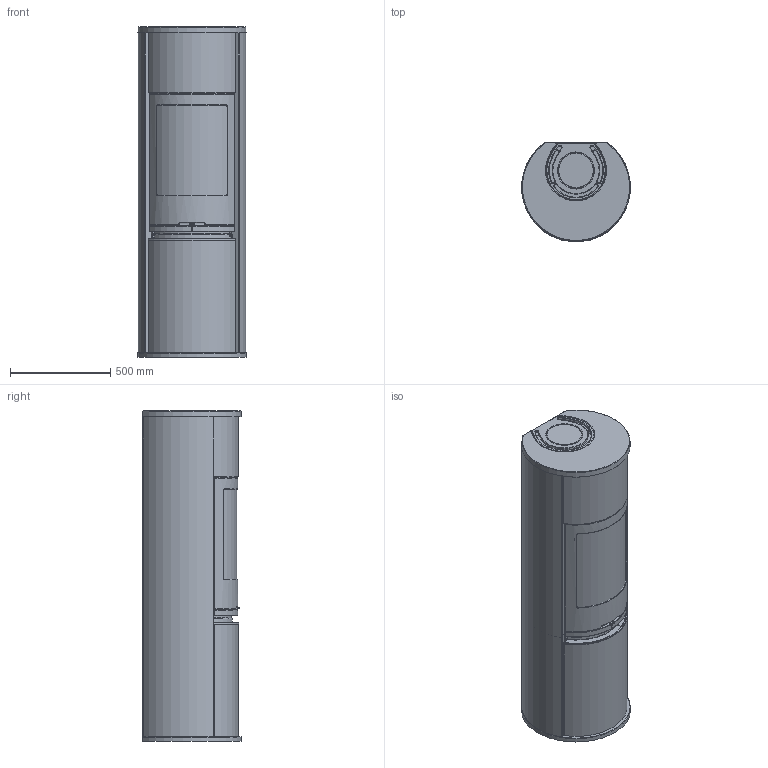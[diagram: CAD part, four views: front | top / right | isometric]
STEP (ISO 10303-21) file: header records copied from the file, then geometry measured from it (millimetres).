
FILE_DESCRIPTION(/* description */ ('Unknown'),/* implementation_level */ '2;1');
FILE_NAME(/* name */ 'C690 interior model-0',/* time_stamp */ '2017-06-28T11:28:30+02:00',/* author */ ('Unknown'),/* organization */ ('NIBE AB/Contura'),/* preprocessor_version */ 'ST-DEVELOPER v16.7',/* originating_system */ 'DEX',/* authorisation */ $);
FILE_SCHEMA (('AUTOMOTIVE_DESIGN {1 0 10303 214 3 1 1}'));
Length unit declared in the file: millimetre
Products named in the file (13): DSN1018747; DSN1018428; DSN1018413; DSN1018743; DSN1018424; DSN1018744; DSN1018746; DSN1018414; DSN1018411; DSN1018429; DSN1018742; DSN1018421; DSN1018745
Assembly tree (12 placements, depth 2):
  DSN1018747
    DSN1018428
    DSN1018413
    DSN1018743
    DSN1018424
    DSN1018744
    DSN1018746
    DSN1018414
    DSN1018411
    DSN1018429
    DSN1018742
    DSN1018421
    DSN1018745
Bounding box: 542.46 x 495.19 x 1650 mm (x, y, z)
Volume: 303315761.7 mm3; surface area: 12255945.5 mm2
Topology: 13 solids, 19 shells, 1103 faces, 2742 edges, 1737 vertices
Faces by surface type: plane 446, bspline 267, cylinder 239, torus 84, cone 44, sphere 23
Full cylindrical faces by diameter (mm): 170 x1, 172 x1, 205 x1, 210.655 x1
Entity records: 41602 total; most frequent: CARTESIAN_POINT 17494, ORIENTED_EDGE 5424, DIRECTION 4160, EDGE_CURVE 2712, VERTEX_POINT 1737, AXIS2_PLACEMENT_3D 1617, EDGE_LOOP 1201, FACE_BOUND 1201
